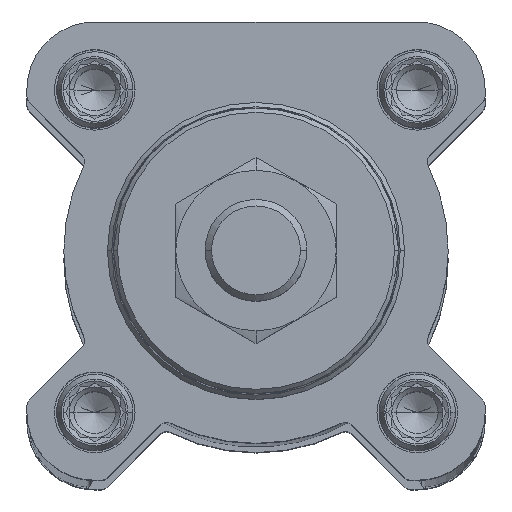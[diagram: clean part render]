
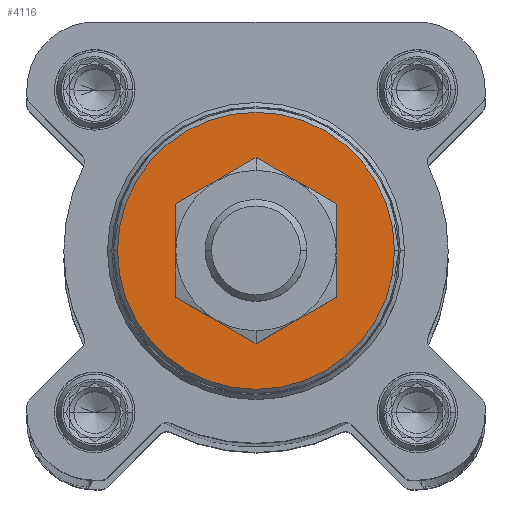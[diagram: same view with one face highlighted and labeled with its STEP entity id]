
A CAD part, top view. The second image highlights one B-rep face of the part: STEP entity #4116.
In plain terms, the highlighted planar face has unit normal (0, 0, 1).
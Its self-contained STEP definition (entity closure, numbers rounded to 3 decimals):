
#7 = DIRECTION ( 'NONE',  ( 0., 0., -1. ) ) ;
#784 = VERTEX_POINT ( 'NONE', #2519 ) ;
#1113 = DIRECTION ( 'NONE',  ( -1., 0., 0. ) ) ;
#2252 = CARTESIAN_POINT ( 'NONE',  ( 16.32, 0., 21.3 ) ) ;
#2280 = PLANE ( 'NONE',  #13148 ) ;
#2519 = CARTESIAN_POINT ( 'NONE',  ( 8., 0., 21.3 ) ) ;
#3297 = EDGE_LOOP ( 'NONE', ( #5345, #10582 ) ) ;
#3576 = DIRECTION ( 'NONE',  ( -1., 0., 0. ) ) ;
#4116 = ADVANCED_FACE ( 'NONE', ( #15704, #9832 ), #2280, .F. ) ;
#4530 = AXIS2_PLACEMENT_3D ( 'NONE', #11131, #18215, #3576 ) ;
#5040 = DIRECTION ( 'NONE',  ( 0., 0., -1. ) ) ;
#5345 = ORIENTED_EDGE ( 'NONE', *, *, #6325, .F. ) ;
#6325 = EDGE_CURVE ( 'NONE', #19515, #12630, #16764, .T. ) ;
#7529 = ORIENTED_EDGE ( 'NONE', *, *, #8138, .T. ) ;
#8138 = EDGE_CURVE ( 'NONE', #784, #8224, #17856, .T. ) ;
#8224 = VERTEX_POINT ( 'NONE', #10021 ) ;
#8455 = EDGE_LOOP ( 'NONE', ( #18201, #7529 ) ) ;
#8981 = CIRCLE ( 'NONE', #18512, 8. ) ;
#9054 = CARTESIAN_POINT ( 'NONE',  ( 0., 0., 21.3 ) ) ;
#9202 = CARTESIAN_POINT ( 'NONE',  ( -16.32, 0., 21.3 ) ) ;
#9832 = FACE_BOUND ( 'NONE', #8455, .T. ) ;
#10021 = CARTESIAN_POINT ( 'NONE',  ( -8., 0., 21.3 ) ) ;
#10582 = ORIENTED_EDGE ( 'NONE', *, *, #14836, .F. ) ;
#11044 = CIRCLE ( 'NONE', #11981, 16.32 ) ;
#11131 = CARTESIAN_POINT ( 'NONE',  ( 0., 0., 21.3 ) ) ;
#11475 = DIRECTION ( 'NONE',  ( -1., 0., 0. ) ) ;
#11964 = EDGE_CURVE ( 'NONE', #8224, #784, #8981, .T. ) ;
#11981 = AXIS2_PLACEMENT_3D ( 'NONE', #12294, #5040, #11475 ) ;
#12285 = AXIS2_PLACEMENT_3D ( 'NONE', #14831, #13440, #16718 ) ;
#12294 = CARTESIAN_POINT ( 'NONE',  ( 0., 0., 21.3 ) ) ;
#12630 = VERTEX_POINT ( 'NONE', #2252 ) ;
#12817 = DIRECTION ( 'NONE',  ( 0., 0., -1. ) ) ;
#13148 = AXIS2_PLACEMENT_3D ( 'NONE', #17011, #12817, #17111 ) ;
#13440 = DIRECTION ( 'NONE',  ( 0., 0., -1. ) ) ;
#14831 = CARTESIAN_POINT ( 'NONE',  ( 0., 0., 21.3 ) ) ;
#14836 = EDGE_CURVE ( 'NONE', #12630, #19515, #11044, .T. ) ;
#15704 = FACE_OUTER_BOUND ( 'NONE', #3297, .T. ) ;
#16718 = DIRECTION ( 'NONE',  ( -1., 0., 0. ) ) ;
#16764 = CIRCLE ( 'NONE', #12285, 16.32 ) ;
#17011 = CARTESIAN_POINT ( 'NONE',  ( 0., 0., 21.3 ) ) ;
#17111 = DIRECTION ( 'NONE',  ( 0., -1., 0. ) ) ;
#17856 = CIRCLE ( 'NONE', #4530, 8. ) ;
#18201 = ORIENTED_EDGE ( 'NONE', *, *, #11964, .T. ) ;
#18215 = DIRECTION ( 'NONE',  ( 0., 0., -1. ) ) ;
#18512 = AXIS2_PLACEMENT_3D ( 'NONE', #9054, #7, #1113 ) ;
#19515 = VERTEX_POINT ( 'NONE', #9202 ) ;
